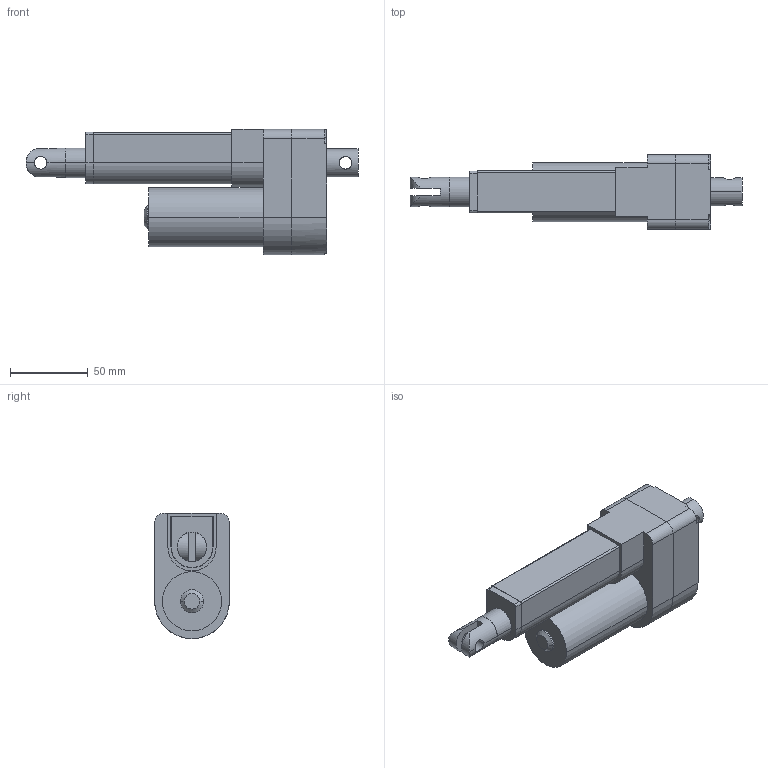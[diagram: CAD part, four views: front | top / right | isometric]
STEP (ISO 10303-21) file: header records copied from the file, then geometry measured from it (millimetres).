
FILE_DESCRIPTION((''),'2;1');
FILE_NAME('LAS3-S100_ASM','2007-07-11T',('amyliao'),(''),'PRO/ENGINEER BY PARAMETRIC TECHNOLOGY CORPORATION, 2003210','PRO/ENGINEER BY PARAMETRIC TECHNOLOGY CORPORATION, 2003210','');
FILE_SCHEMA(('CONFIG_CONTROL_DESIGN'));
Length unit declared in the file: millimetre
Products named in the file (8): 001; 002; LAS-MOTOR; OUT-TUB; 1; LAS-IN-TUB; LAS-IN-PLUG; LAS3-S100_ASM
Assembly tree (7 placements, depth 2):
  LAS3-S100_ASM
    001
    002
    LAS-MOTOR
    OUT-TUB
    1
    LAS-IN-TUB
    LAS-IN-PLUG
Bounding box: 213.35 x 48 x 80.5 mm (x, y, z)
Volume: 207162.3 mm3; surface area: 85873.1 mm2
Topology: 7 solids, 7 shells, 157 faces, 408 edges, 270 vertices
Faces by surface type: cylinder 79, plane 76, cone 2
Entity records: 5300 total; most frequent: CARTESIAN_POINT 1062, DIRECTION 894, ORIENTED_EDGE 816, EDGE_CURVE 408, AXIS2_PLACEMENT_3D 326, VERTEX_POINT 270, VECTOR 242, LINE 242
